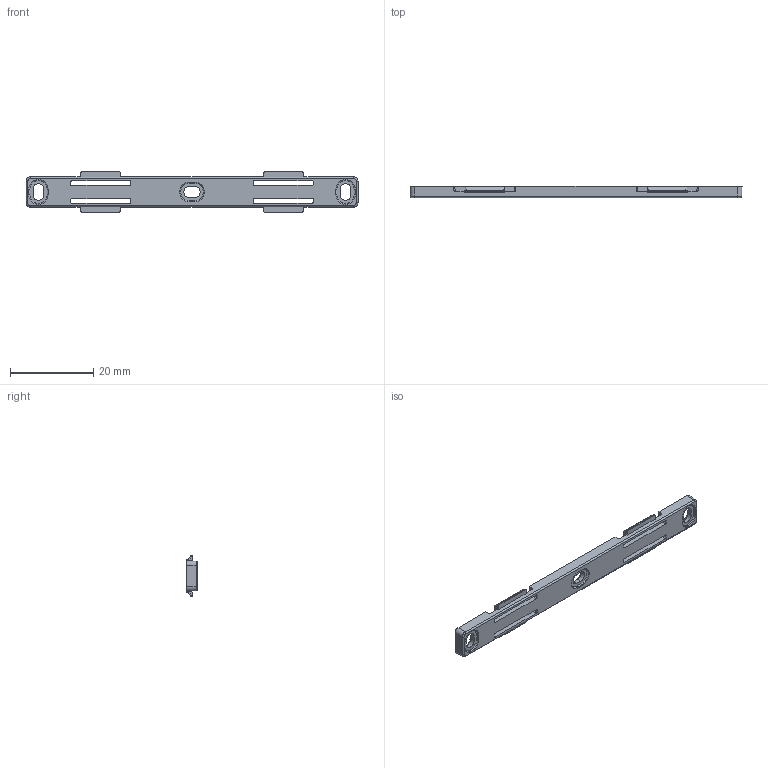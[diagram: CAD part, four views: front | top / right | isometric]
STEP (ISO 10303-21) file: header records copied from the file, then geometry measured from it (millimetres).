
FILE_DESCRIPTION (( 'STEP AP214' ), '1' );
FILE_NAME ('2000822 Porto Mini 1 Befestigungsset.STEP', '2022-11-18T12:26:09', ( '' ), ( '' ), 'SwSTEP 2.0', 'SolidWorks 2021', '' );
FILE_SCHEMA (( 'AUTOMOTIVE_DESIGN' ));
Length unit declared in the file: millimetre
Products named in the file (1): 2000822 Porto Mini 1 Befestigungsset
Bounding box: 80 x 2.7 x 9.7 mm (x, y, z)
Volume: 1097.1 mm3; surface area: 2045.1 mm2
Topology: 1 solids, 1 shells, 538 faces, 1297 edges, 764 vertices
Faces by surface type: cylinder 197, bspline 144, plane 123, cone 30, sphere 24, torus 20
Entity records: 18041 total; most frequent: CARTESIAN_POINT 6792, ORIENTED_EDGE 2578, DIRECTION 2085, EDGE_CURVE 1289, AXIS2_PLACEMENT_3D 773, VERTEX_POINT 764, EDGE_LOOP 563, LINE 539
